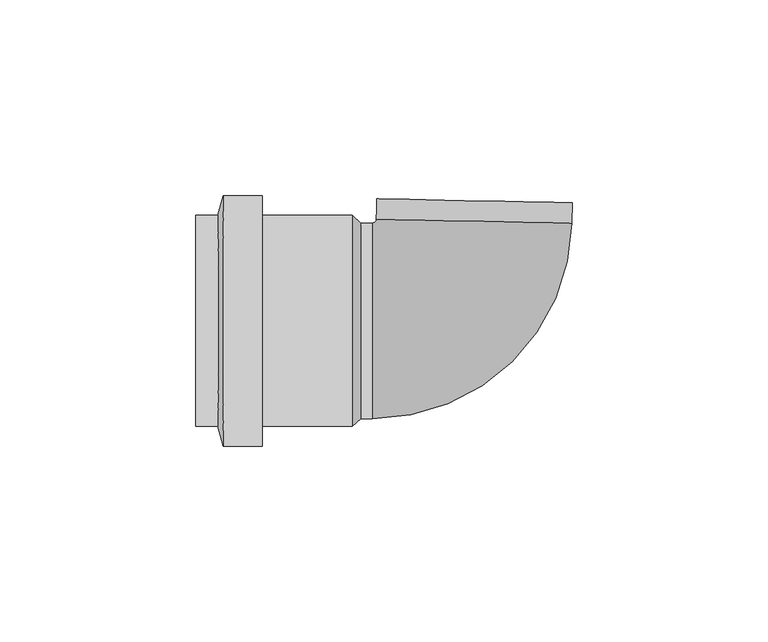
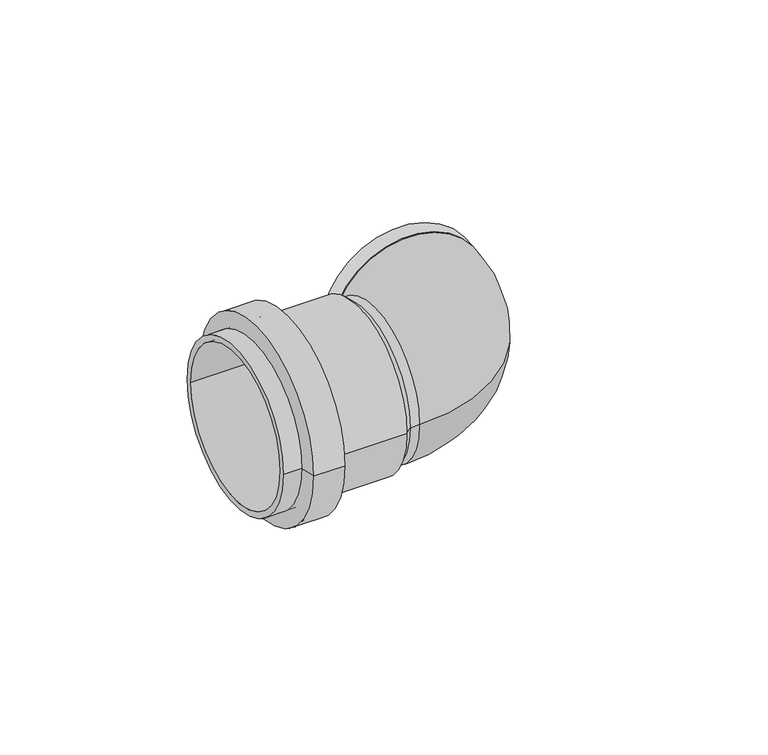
"""IFC4 building model written with IfcOpenShell, lengths in millimetres: pipe fitting geometry, Joelho 45_90 - Serie Normal - Esgoto : Joelho 45_90 - Serie Normal - Esgoto."""

from ifc_helpers import new_model, si_unit, point, frame, origin, origin_2d, place, context, project, spatial, polyline, circle_curve, ellipse_curve, trimmed, segment, composite_curve, outline, extrude, source, transform, mapped, element, save
from ifc_brep_helpers import plane_surface, cylinder_surface, revolved_surface, advanced_brep


def pipe_fitting_b5be2192(model_context):
    return source(origin(), model_context, "Body", "SolidModel", [
        extrude(outline(composite_curve([segment(trimmed(circle_curve(origin_2d(), 25.0), [point((0.0, 25.0))], [point((0.0, -25.0))], False, "CARTESIAN"), True, "CONTINUOUS"), segment(trimmed(circle_curve(origin_2d(), 25.0), [point((0.0, -25.0))], [point((0.0, 25.0))], False, "CARTESIAN"), True, "CONTINUOUS")], self_intersect=False)), frame((0.5096021, 25.480104, 0.0), z_axis=(0.019996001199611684, 0.9998000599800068, 0.0), x_axis=(0.0, 0.0, 1.0)), (0.0, 0.0, 1.0), 5.2),
        advanced_brep(
        [(-70.6851995, 27.0, 0.0), (-70.6851995, -27.0, 0.0), (-70.6851995, 25.0, 0.0), (-70.6851995, -25.0, 0.0), (-30.6851995, -25.0, 0.0), (-30.6851995, 25.0, 0.0), (-30.6851995, -27.0, 0.0), (-30.6851995, 27.0, 0.0), (-28.4851995, -25.0, 0.0), (-28.4851995, 25.0, 0.0), (-25.4851995, 25.0, 0.0), (-25.4851995, -25.0, 0.0), (25.5046036, 24.9802039, 0.0), (-24.4853994, 25.980004, 0.0)],
        [
            (0, 1, circle_curve(frame((-70.6851995, 0.0, 0.0), z_axis=(-1.0, 0.0, 0.0), x_axis=(0.0, -1.0, 0.0)), 27.0)),
            (1, 0, circle_curve(frame((-70.6851995, 0.0, 0.0), z_axis=(-1.0, 0.0, 0.0), x_axis=(0.0, -1.0, 0.0)), 27.0)),
            (2, 3, circle_curve(frame((-70.6851995, 0.0, 0.0), z_axis=(1.0, 0.0, 0.0), x_axis=(0.0, -1.0, 0.0)), 25.0)),
            (3, 2, circle_curve(frame((-70.6851995, 0.0, 0.0), z_axis=(1.0, 0.0, 0.0), x_axis=(0.0, -1.0, 0.0)), 25.0)),
            (3, 4),
            (4, 5, circle_curve(frame((-30.6851995, 0.0, 0.0), z_axis=(1.0, 0.0, 0.0), x_axis=(0.0, -1.0, 0.0)), 25.0)),
            (5, 2),
            (5, 4, circle_curve(frame((-30.6851995, 0.0, 0.0), z_axis=(1.0, 0.0, 0.0), x_axis=(0.0, -1.0, 0.0)), 25.0)),
            (1, 6),
            (6, 7, circle_curve(frame((-30.6851995, 0.0, 0.0), z_axis=(-1.0, 0.0, 0.0), x_axis=(0.0, -1.0, 0.0)), 27.0)),
            (7, 0),
            (7, 6, circle_curve(frame((-30.6851995, 0.0, 0.0), z_axis=(-1.0, 0.0, 0.0), x_axis=(0.0, -1.0, 0.0)), 27.0)),
            (8, 6),
            (7, 9),
            (9, 8, circle_curve(frame((-28.4851995, 0.0, 0.0), z_axis=(-1.0, 0.0, 0.0), x_axis=(0.0, 1.0, 0.0)), 25.0)),
            (8, 9, circle_curve(frame((-28.4851995, 0.0, 0.0), z_axis=(-1.0, 0.0, 0.0), x_axis=(0.0, -1.0, 0.0)), 25.0)),
            (10, 9),
            (8, 11),
            (11, 10, circle_curve(frame((-25.4851995, 0.0, 0.0), z_axis=(-1.0, 0.0, 0.0), x_axis=(0.0, -1.0, 0.0)), 25.0)),
            (10, 11, circle_curve(frame((-25.4851995, 0.0, 0.0), z_axis=(-1.0, 0.0, 0.0), x_axis=(0.0, -1.0, 0.0)), 25.0)),
            (12, 13, circle_curve(frame((0.5096021, 25.480104, 0.0), z_axis=(0.019996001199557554, 0.9998000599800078, 0.0), x_axis=(-0.9998000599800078, 0.019996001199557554, 0.0)), 25.0)),
            (13, 12, circle_curve(frame((0.5096021, 25.480104, 0.0), z_axis=(0.019996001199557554, 0.9998000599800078, 0.0), x_axis=(-0.9998000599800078, 0.019996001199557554, 0.0)), 25.0)),
            (13, 10, circle_curve(frame((-25.4851995, 26.0, 0.0), z_axis=(0.0, 0.0, -1.0), x_axis=(0.0, -1.0, 0.0)), 1.0)),
            (11, 12, circle_curve(frame((-25.4851995, 26.0, 0.0), z_axis=(0.0, 0.0, 1.0), x_axis=(0.0, -1.0, 0.0)), 51.0)),
        ],
        [
            plane_surface(frame((-70.6851995, 0.0, 0.0), z_axis=(-1.0, 0.0, 0.0), x_axis=(0.0, 0.0, 1.0))),
            revolved_surface(polyline([(-70.6851995, -25.0, 0.0), (-30.6851995, -25.0, 0.0)]), (-30.6851995, 0.0, 0.0), (-1.0, 0.0, 0.0)),
            cylinder_surface(frame((-30.6851995, 0.0, 0.0), z_axis=(1.0, 0.0, 0.0), x_axis=(0.0, -1.0, 0.0)), 27.0),
            plane_surface(frame((-30.6851995, 0.0, 0.0), z_axis=(-1.0, 0.0, 0.0), x_axis=(0.0, 0.0, -1.0))),
            revolved_surface(polyline([(-28.4851995, -25.0, 0.0), (-30.6851995, -27.0, 0.0)]), (-0.9851995, 0.0, 0.0), (-1.0, 0.0, 0.0)),
            cylinder_surface(frame((-25.4851995, 0.0, 0.0), z_axis=(1.0, 0.0, 0.0), x_axis=(0.0, -1.0, 0.0)), 25.0),
            plane_surface(frame((0.5096021, 25.480104, 0.0), z_axis=(0.019996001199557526, 0.9998000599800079, 0.0), x_axis=(0.0, 0.0, 1.0))),
            revolved_surface(trimmed(ellipse_curve(frame((-25.4851995, 0.0, 0.0), z_axis=(-1.0, 0.0, 0.0), x_axis=(0.0, 1.0, 0.0)), 25.0, 25.0), [point((-25.4851995, -25.0, 0.0))], [point((-25.4851995, 25.0, 0.0))], True, "CARTESIAN"), (-25.4851995, 26.0, 0.0), (0.0, 0.0, 1.0)),
            revolved_surface(trimmed(ellipse_curve(frame((-25.4851995, 0.0, 0.0), z_axis=(-1.0, 0.0, 0.0), x_axis=(0.0, 1.0, 0.0)), 25.0, 25.0), [point((-25.4851995, 25.0, 0.0))], [point((-25.4851995, -25.0, 0.0))], True, "CARTESIAN"), (-25.4851995, 26.0, 0.0), (0.0, 0.0, 1.0)),
        ],
        [
            (0, [[1, 2], [3, 4]]),
            (1, [[-4, 5, 6, 7]]),
            (1, [[-3, -7, 8, -5]]),
            (2, [[-2, 9, 10, 11]]),
            (2, [[-1, -11, 12, -9]]),
            (3, [[-6, -8]]),
            (4, [[13, -12, 14, 15]]),
            (4, [[-13, 16, -14, -10]]),
            (5, [[17, -16, 18, 19]]),
            (5, [[-17, 20, -18, -15]]),
            (6, [[21, 22]]),
            (7, [[-22, 23, -19, 24]]),
            (8, [[-21, -24, -20, -23]]),
        ],
    ),
        advanced_brep(
        [(-53.6851995, 32.0, 0.0), (-53.6851995, -32.0, 0.0), (-53.6851995, 27.0, 0.0), (-53.6851995, -27.0, 0.0), (-63.6851995, 27.0, 0.0), (-63.6851995, -27.0, 0.0), (-63.6851995, 32.0, 0.0), (-63.6851995, -32.0, 0.0), (-64.9851995, 27.0, 0.0), (-64.9851995, -27.0, 0.0)],
        [
            (0, 1, circle_curve(frame((-53.6851995, 0.0, 0.0), z_axis=(1.0, 0.0, 0.0), x_axis=(0.0, -1.0, 0.0)), 32.0)),
            (1, 0, circle_curve(frame((-53.6851995, 0.0, 0.0), z_axis=(1.0, 0.0, 0.0), x_axis=(0.0, -1.0, 0.0)), 32.0)),
            (2, 3, circle_curve(frame((-53.6851995, 0.0, 0.0), z_axis=(-1.0, 0.0, 0.0), x_axis=(0.0, -1.0, 0.0)), 27.0)),
            (3, 2, circle_curve(frame((-53.6851995, 0.0, 0.0), z_axis=(-1.0, 0.0, 0.0), x_axis=(0.0, -1.0, 0.0)), 27.0)),
            (2, 4),
            (4, 5, circle_curve(frame((-63.6851995, 0.0, 0.0), z_axis=(-1.0, 0.0, 0.0), x_axis=(0.0, -1.0, 0.0)), 27.0)),
            (5, 3),
            (5, 4, circle_curve(frame((-63.6851995, 0.0, 0.0), z_axis=(-1.0, 0.0, 0.0), x_axis=(0.0, -1.0, 0.0)), 27.0)),
            (0, 6),
            (6, 7, circle_curve(frame((-63.6851995, 0.0, 0.0), z_axis=(1.0, 0.0, 0.0), x_axis=(0.0, -1.0, 0.0)), 32.0)),
            (7, 1),
            (7, 6, circle_curve(frame((-63.6851995, 0.0, 0.0), z_axis=(1.0, 0.0, 0.0), x_axis=(0.0, -1.0, 0.0)), 32.0)),
            (4, 8),
            (8, 9, circle_curve(frame((-64.9851995, 0.0, 0.0), z_axis=(-1.0, 0.0, 0.0), x_axis=(0.0, -1.0, 0.0)), 27.0)),
            (9, 5),
            (9, 8, circle_curve(frame((-64.9851995, 0.0, 0.0), z_axis=(-1.0, 0.0, 0.0), x_axis=(0.0, -1.0, 0.0)), 27.0)),
            (7, 9),
            (8, 6),
        ],
        [
            plane_surface(frame((-53.6851995, 0.0, 0.0), z_axis=(1.0, 0.0, 0.0), x_axis=(0.0, 0.0, 1.0))),
            revolved_surface(polyline([(-63.6851995, -27.0, 0.0), (-53.6851995, -27.0, 0.0)]), (-53.6851995, 0.0, 0.0), (-1.0, 0.0, 0.0)),
            cylinder_surface(frame((-53.6851995, 0.0, 0.0), z_axis=(1.0, 0.0, 0.0), x_axis=(0.0, -1.0, 0.0)), 32.0),
            revolved_surface(polyline([(-63.6851995, -27.0, 0.0), (-64.9851995, -27.0, 0.0)]), (-63.6851995, 0.0, 0.0), (1.0, 0.0, 0.0)),
            revolved_surface(polyline([(-64.9851995, -27.00000000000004, 0.0), (-63.6851995, -32.0, 0.0)]), (-72.0051995, 0.0, 0.0), (1.0, 0.0, 0.0)),
        ],
        [
            (0, [[1, 2], [3, 4]]),
            (1, [[-3, 5, 6, 7]]),
            (1, [[-4, -7, 8, -5]]),
            (2, [[-1, 9, 10, 11]]),
            (2, [[-2, -11, 12, -9]]),
            (3, [[13, 14, 15, -6]]),
            (3, [[-13, -8, -15, 16]]),
            (4, [[17, -14, 18, -12]]),
            (4, [[-17, -10, -18, -16]]),
        ],
    ),
    ])


if __name__ == "__main__":
    model = new_model("IFC4")
    model_context = context("Model", 3, world=origin())
    ifc_project = project(units=[si_unit("LENGTHUNIT", "METRE", prefix="MILLI")], contexts=[model_context])
    site = spatial("IfcSite", under=ifc_project)
    building = spatial("IfcBuilding", under=site)
    placement = place(None, origin())
    pipe_fitting_shape = pipe_fitting_b5be2192(model_context)
    element("IfcPipeFitting", 1, ObjectType="Joelho 45_90 - Serie Normal - Esgoto : Joelho 45_90 - Serie Normal - Esgoto", at=placement, inside=building, context=model_context, shape_type="MappedRepresentation", body=[
        mapped(pipe_fitting_shape, transform((0.0, 0.0, 0.0), x_axis=(1.0, 0.0, 0.0), y_axis=(0.0, 1.0, 0.0), z_axis=(0.0, 0.0, 1.0))),
    ])
    save(model, "model.ifc")
